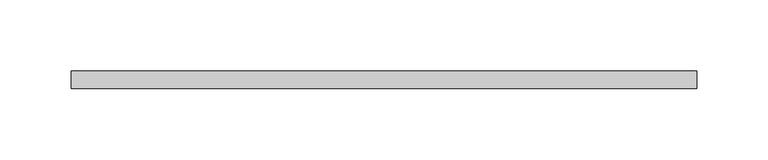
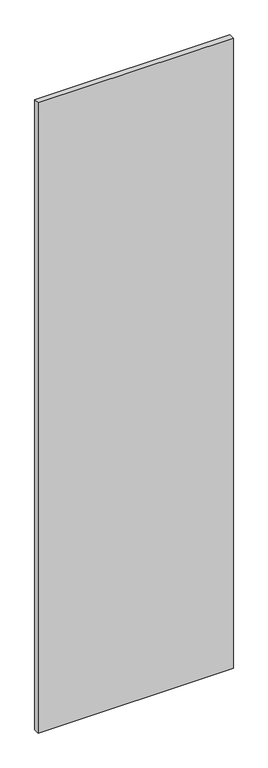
"""IFC4 building model written with IfcOpenShell, lengths in millimetres: proxy geometry, КНАУФ-Файерборд : КНАУФ-Файерборд."""

from ifc_helpers import new_model, si_unit, origin, origin_with_axes, place, context, project, spatial, polyline, outline, extrude, source, transform, mapped, element, save


def generic_models_3024f5be(model_context):
    return source(origin(), model_context, "Body", "SweptSolid", [
        extrude(outline(polyline([(220.0, 0.0), (220.0, -12.5), (-220.0, -12.5), (-220.0, 0.0), (220.0, 0.0)])), origin_with_axes(), (0.0, 0.0, 1.0), 1500.0),
    ])


if __name__ == "__main__":
    model = new_model("IFC4")
    model_context = context("Model", 3, world=origin())
    ifc_project = project(units=[si_unit("LENGTHUNIT", "METRE", prefix="MILLI")], contexts=[model_context])
    site = spatial("IfcSite", under=ifc_project)
    building = spatial("IfcBuilding", under=site)
    placement = place(None, origin())
    generic_models_shape = generic_models_3024f5be(model_context)
    element("IfcBuildingElementProxy", 1, Name="КНАУФ-Файерборд : КНАУФ-Файерборд", ObjectType="КНАУФ-Файерборд : КНАУФ-Файерборд", at=placement, inside=building, context=model_context, shape_type="MappedRepresentation", body=[
        mapped(generic_models_shape, transform((0.0, 0.0, 0.0), x_axis=(1.0, 0.0, 0.0), y_axis=(0.0, 1.0, 0.0), z_axis=(0.0, 0.0, 1.0))),
    ])
    save(model, "model.ifc")
